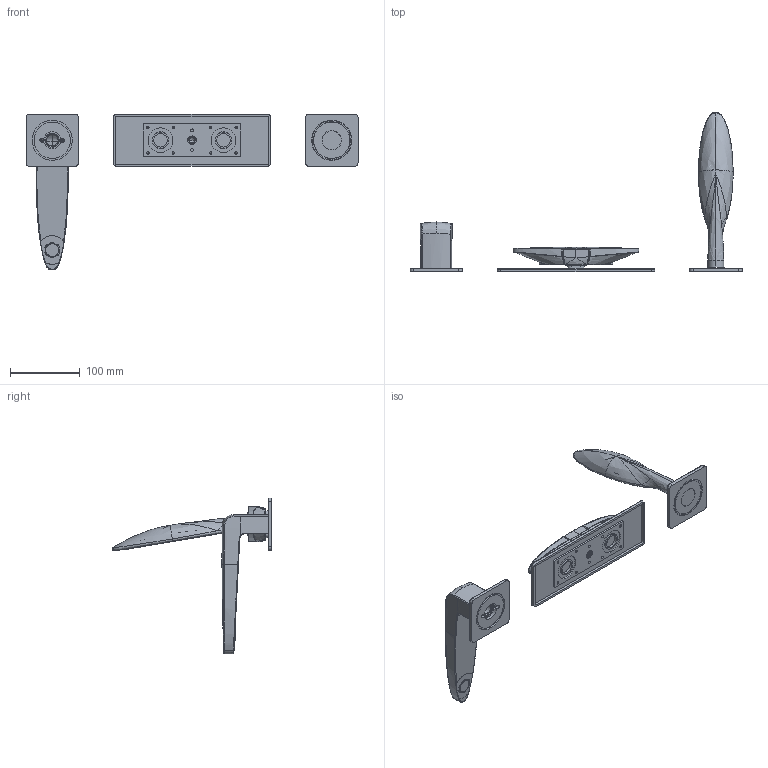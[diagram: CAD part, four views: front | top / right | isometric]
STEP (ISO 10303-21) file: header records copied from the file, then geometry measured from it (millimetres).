
FILE_DESCRIPTION((''),'2;1');
FILE_NAME('F3914_FILE_3D','2015-04-17T',('ivanv'),(''),'PRO/ENGINEER BY PARAMETRIC TECHNOLOGY CORPORATION, 2012130','PRO/ENGINEER BY PARAMETRIC TECHNOLOGY CORPORATION, 2012130','');
FILE_SCHEMA(('CONFIG_CONTROL_DESIGN'));
Products named in the file (1): F3914_FILE_3D
Bounding box: 475 x 228.88 x 223.09 mm (x, y, z)
Volume: 376280.5 mm3; surface area: 197209.7 mm2
Topology: 8 solids, 9 shells, 5285 faces, 14848 edges, 9734 vertices
Faces by surface type: plane 3803, cylinder 540, cone 412, bspline 231, extrusion 205, torus 60, sphere 34
Entity records: 211211 total; most frequent: CARTESIAN_POINT 87073, ORIENTED_EDGE 29588, DIRECTION 18857, EDGE_CURVE 14794, VERTEX_POINT 9734, B_SPLINE_CURVE_WITH_KNOTS 8044, AXIS2_PLACEMENT_3D 6848, EDGE_LOOP 6810
